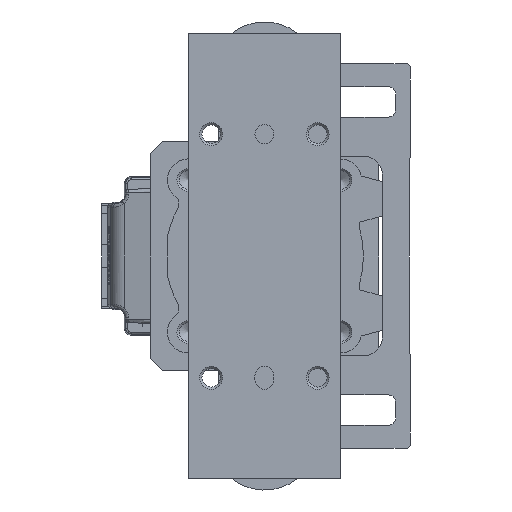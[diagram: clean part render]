
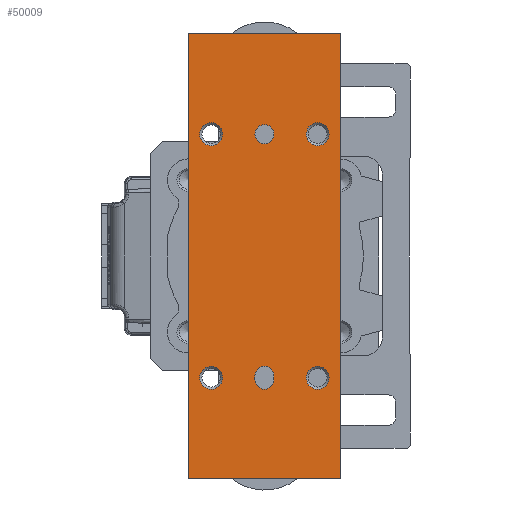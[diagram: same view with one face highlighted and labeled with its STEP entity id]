
A CAD part, left-side view. The second image highlights one B-rep face of the part: STEP entity #50009.
In plain terms, the highlighted planar face has unit normal (-1, 0, 0) as drawn and (0, 0, 1) by its records, which use the part's own axes.
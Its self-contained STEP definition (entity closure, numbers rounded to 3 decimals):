
#45 = AXIS2_PLACEMENT_3D ( 'NONE', #50739, #43728, #26531 ) ;
#460 = EDGE_CURVE ( 'NONE', #52455, #46177, #21160, .T. ) ;
#921 = CARTESIAN_POINT ( 'NONE',  ( -58.5, -20., 28.5 ) ) ;
#1045 = CIRCLE ( 'NONE', #50857, 2.5 ) ;
#1335 = DIRECTION ( 'NONE',  ( -1., 0., 0. ) ) ;
#1783 = DIRECTION ( 'NONE',  ( 0., 1., 0. ) ) ;
#2617 = CIRCLE ( 'NONE', #45, 3. ) ;
#3117 = AXIS2_PLACEMENT_3D ( 'NONE', #20653, #23181, #8039 ) ;
#3155 = VERTEX_POINT ( 'NONE', #19526 ) ;
#3633 = CARTESIAN_POINT ( 'NONE',  ( -32., 14., 28.5 ) ) ;
#5276 = EDGE_CURVE ( 'NONE', #30742, #23870, #38244, .T. ) ;
#5352 = FACE_BOUND ( 'NONE', #27232, .T. ) ;
#5393 = DIRECTION ( 'NONE',  ( -1., 0., 0. ) ) ;
#5626 = FACE_BOUND ( 'NONE', #34108, .T. ) ;
#5845 = VERTEX_POINT ( 'NONE', #19280 ) ;
#6011 = ORIENTED_EDGE ( 'NONE', *, *, #19193, .T. ) ;
#8039 = DIRECTION ( 'NONE',  ( -1., 0., 0. ) ) ;
#8218 = ORIENTED_EDGE ( 'NONE', *, *, #47303, .T. ) ;
#8327 = ORIENTED_EDGE ( 'NONE', *, *, #38501, .F. ) ;
#8382 = EDGE_CURVE ( 'NONE', #29755, #29755, #13061, .T. ) ;
#9114 = CIRCLE ( 'NONE', #39167, 2.5 ) ;
#10086 = DIRECTION ( 'NONE',  ( 1., 0., 0. ) ) ;
#10347 = CARTESIAN_POINT ( 'NONE',  ( -32.5, 0., 28.5 ) ) ;
#10371 = ORIENTED_EDGE ( 'NONE', *, *, #40488, .T. ) ;
#10590 = DIRECTION ( 'NONE',  ( 1., 0., 0. ) ) ;
#11045 = CARTESIAN_POINT ( 'NONE',  ( -32.5, 2.5, 28.5 ) ) ;
#11397 = DIRECTION ( 'NONE',  ( 0., 0., -1. ) ) ;
#11417 = VECTOR ( 'NONE', #5393, 1000. ) ;
#11453 = VERTEX_POINT ( 'NONE', #44270 ) ;
#11679 = ORIENTED_EDGE ( 'NONE', *, *, #25106, .F. ) ;
#12034 = DIRECTION ( 'NONE',  ( 0., -1., 0. ) ) ;
#12170 = ORIENTED_EDGE ( 'NONE', *, *, #460, .T. ) ;
#13061 = CIRCLE ( 'NONE', #21676, 3. ) ;
#13389 = FACE_BOUND ( 'NONE', #17001, .T. ) ;
#13677 = LINE ( 'NONE', #33095, #11417 ) ;
#14603 = CARTESIAN_POINT ( 'NONE',  ( 32., 0., 28.5 ) ) ;
#14839 = CARTESIAN_POINT ( 'NONE',  ( -32.5, -2.5, 28.5 ) ) ;
#14862 = EDGE_LOOP ( 'NONE', ( #34771 ) ) ;
#15292 = CARTESIAN_POINT ( 'NONE',  ( -31.5, 0., 28.5 ) ) ;
#15491 = VECTOR ( 'NONE', #23441, 1000. ) ;
#15728 = CARTESIAN_POINT ( 'NONE',  ( -32.5, 2.5, 28.5 ) ) ;
#15772 = VERTEX_POINT ( 'NONE', #36706 ) ;
#16719 = AXIS2_PLACEMENT_3D ( 'NONE', #21741, #42164, #1335 ) ;
#16885 = DIRECTION ( 'NONE',  ( 1., 0., 0. ) ) ;
#17001 = EDGE_LOOP ( 'NONE', ( #48278 ) ) ;
#17417 = VECTOR ( 'NONE', #12034, 1000. ) ;
#17709 = FACE_BOUND ( 'NONE', #41342, .T. ) ;
#18556 = DIRECTION ( 'NONE',  ( 0., 0., -1. ) ) ;
#18576 = CARTESIAN_POINT ( 'NONE',  ( -31.5, 2.5, 28.5 ) ) ;
#19082 = CARTESIAN_POINT ( 'NONE',  ( 32., -14., 28.5 ) ) ;
#19193 = EDGE_CURVE ( 'NONE', #52964, #38016, #41363, .T. ) ;
#19280 = CARTESIAN_POINT ( 'NONE',  ( 34.5, 0., 28.5 ) ) ;
#19526 = CARTESIAN_POINT ( 'NONE',  ( 29., 14., 28.5 ) ) ;
#19786 = EDGE_CURVE ( 'NONE', #21740, #30742, #1045, .T. ) ;
#20653 = CARTESIAN_POINT ( 'NONE',  ( -32., -14., 28.5 ) ) ;
#20921 = CARTESIAN_POINT ( 'NONE',  ( -58.5, -20., 28.5 ) ) ;
#21160 = LINE ( 'NONE', #45627, #33260 ) ;
#21676 = AXIS2_PLACEMENT_3D ( 'NONE', #19082, #18556, #43533 ) ;
#21740 = VERTEX_POINT ( 'NONE', #15728 ) ;
#21741 = CARTESIAN_POINT ( 'NONE',  ( 0., 0., 28.5 ) ) ;
#21772 = CARTESIAN_POINT ( 'NONE',  ( -58.5, 20., 28.5 ) ) ;
#22387 = ORIENTED_EDGE ( 'NONE', *, *, #30885, .F. ) ;
#23181 = DIRECTION ( 'NONE',  ( 0., 0., -1. ) ) ;
#23441 = DIRECTION ( 'NONE',  ( 1., 0., 0. ) ) ;
#23771 = AXIS2_PLACEMENT_3D ( 'NONE', #3633, #11397, #36912 ) ;
#23870 = VERTEX_POINT ( 'NONE', #37467 ) ;
#24686 = LINE ( 'NONE', #33034, #44758 ) ;
#24779 = EDGE_LOOP ( 'NONE', ( #38579, #8327, #11679, #46239 ) ) ;
#24984 = PLANE ( 'NONE',  #16719 ) ;
#25106 = EDGE_CURVE ( 'NONE', #23870, #41180, #36003, .T. ) ;
#26531 = DIRECTION ( 'NONE',  ( -1., 0., 0. ) ) ;
#26585 = AXIS2_PLACEMENT_3D ( 'NONE', #15292, #52394, #39484 ) ;
#27118 = EDGE_CURVE ( 'NONE', #46177, #52964, #13677, .T. ) ;
#27232 = EDGE_LOOP ( 'NONE', ( #10371 ) ) ;
#29755 = VERTEX_POINT ( 'NONE', #37836 ) ;
#30498 = DIRECTION ( 'NONE',  ( 0., 0., 1. ) ) ;
#30742 = VERTEX_POINT ( 'NONE', #50667 ) ;
#30885 = EDGE_CURVE ( 'NONE', #5845, #5845, #9114, .T. ) ;
#31754 = LINE ( 'NONE', #11045, #33874 ) ;
#32365 = CIRCLE ( 'NONE', #23771, 3. ) ;
#33034 = CARTESIAN_POINT ( 'NONE',  ( -58.5, -20., 28.5 ) ) ;
#33095 = CARTESIAN_POINT ( 'NONE',  ( -58.5, 20., 28.5 ) ) ;
#33260 = VECTOR ( 'NONE', #1783, 1000. ) ;
#33874 = VECTOR ( 'NONE', #35535, 1000. ) ;
#34108 = EDGE_LOOP ( 'NONE', ( #41464 ) ) ;
#34771 = ORIENTED_EDGE ( 'NONE', *, *, #44961, .T. ) ;
#35535 = DIRECTION ( 'NONE',  ( -1., 0., 0. ) ) ;
#36003 = CIRCLE ( 'NONE', #26585, 2.5 ) ;
#36706 = CARTESIAN_POINT ( 'NONE',  ( -35., 14., 28.5 ) ) ;
#36912 = DIRECTION ( 'NONE',  ( -1., 0., 0. ) ) ;
#37467 = CARTESIAN_POINT ( 'NONE',  ( -31.5, -2.5, 28.5 ) ) ;
#37823 = EDGE_LOOP ( 'NONE', ( #12170, #44438, #6011, #8218 ) ) ;
#37836 = CARTESIAN_POINT ( 'NONE',  ( 29., -14., 28.5 ) ) ;
#38016 = VERTEX_POINT ( 'NONE', #921 ) ;
#38145 = FACE_BOUND ( 'NONE', #24779, .T. ) ;
#38244 = LINE ( 'NONE', #14839, #15491 ) ;
#38501 = EDGE_CURVE ( 'NONE', #41180, #21740, #31754, .T. ) ;
#38579 = ORIENTED_EDGE ( 'NONE', *, *, #19786, .F. ) ;
#39167 = AXIS2_PLACEMENT_3D ( 'NONE', #14603, #51200, #10590 ) ;
#39484 = DIRECTION ( 'NONE',  ( 1., 0., 0. ) ) ;
#40002 = EDGE_CURVE ( 'NONE', #11453, #11453, #44310, .T. ) ;
#40488 = EDGE_CURVE ( 'NONE', #15772, #15772, #32365, .T. ) ;
#41180 = VERTEX_POINT ( 'NONE', #18576 ) ;
#41342 = EDGE_LOOP ( 'NONE', ( #22387 ) ) ;
#41363 = LINE ( 'NONE', #20921, #17417 ) ;
#41464 = ORIENTED_EDGE ( 'NONE', *, *, #40002, .T. ) ;
#42164 = DIRECTION ( 'NONE',  ( 0., 0., -1. ) ) ;
#43533 = DIRECTION ( 'NONE',  ( -1., 0., 0. ) ) ;
#43728 = DIRECTION ( 'NONE',  ( 0., 0., -1. ) ) ;
#44270 = CARTESIAN_POINT ( 'NONE',  ( -35., -14., 28.5 ) ) ;
#44310 = CIRCLE ( 'NONE', #3117, 3. ) ;
#44438 = ORIENTED_EDGE ( 'NONE', *, *, #27118, .T. ) ;
#44758 = VECTOR ( 'NONE', #16885, 1000. ) ;
#44961 = EDGE_CURVE ( 'NONE', #3155, #3155, #2617, .T. ) ;
#45627 = CARTESIAN_POINT ( 'NONE',  ( 58.5, -20., 28.5 ) ) ;
#45955 = FACE_OUTER_BOUND ( 'NONE', #37823, .T. ) ;
#46177 = VERTEX_POINT ( 'NONE', #49627 ) ;
#46213 = FACE_BOUND ( 'NONE', #14862, .T. ) ;
#46239 = ORIENTED_EDGE ( 'NONE', *, *, #5276, .F. ) ;
#47303 = EDGE_CURVE ( 'NONE', #38016, #52455, #24686, .T. ) ;
#47443 = CARTESIAN_POINT ( 'NONE',  ( 58.5, -20., 28.5 ) ) ;
#48278 = ORIENTED_EDGE ( 'NONE', *, *, #8382, .T. ) ;
#49627 = CARTESIAN_POINT ( 'NONE',  ( 58.5, 20., 28.5 ) ) ;
#50009 = ADVANCED_FACE ( 'NONE', ( #46213, #13389, #5626, #5352, #17709, #45955, #38145 ), #24984, .F. ) ;
#50667 = CARTESIAN_POINT ( 'NONE',  ( -32.5, -2.5, 28.5 ) ) ;
#50739 = CARTESIAN_POINT ( 'NONE',  ( 32., 14., 28.5 ) ) ;
#50857 = AXIS2_PLACEMENT_3D ( 'NONE', #10347, #30498, #10086 ) ;
#51200 = DIRECTION ( 'NONE',  ( 0., 0., 1. ) ) ;
#52394 = DIRECTION ( 'NONE',  ( 0., 0., 1. ) ) ;
#52455 = VERTEX_POINT ( 'NONE', #47443 ) ;
#52964 = VERTEX_POINT ( 'NONE', #21772 ) ;
